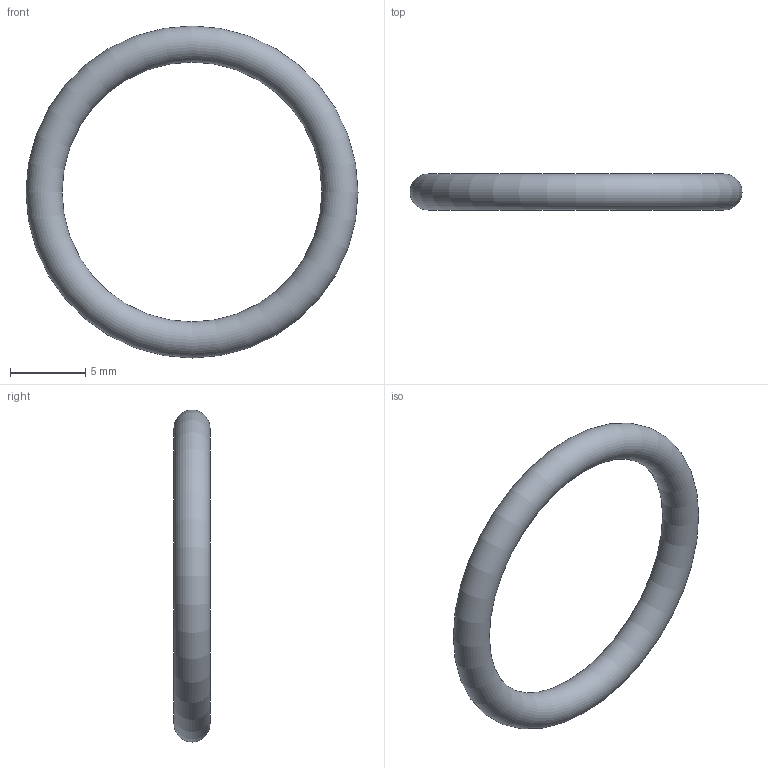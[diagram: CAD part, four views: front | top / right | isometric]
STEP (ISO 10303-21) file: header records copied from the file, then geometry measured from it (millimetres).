
FILE_DESCRIPTION( ( 'STEP AP203' ), '1' );
FILE_NAME( 'C:/Temp/Ganter_Step_05_03_2020/data/3_5/or638/O-Ring OR638-17.30-2.40-70.stp', '2020-03-12T13:44:26', ( 'License CC BY-ND 4.0' ), ( 'CADENAS' ), ' ', 'PARTsolutions', ' ' );
FILE_SCHEMA( ( 'CONFIG_CONTROL_DESIGN' ) );
Length unit declared in the file: millimetre
Products named in the file (1): _O-Ring OR638-17.30-2.40-70
Bounding box: 22.1 x 2.4 x 22.1 mm (x, y, z)
Volume: 280 mm3; surface area: 466.6 mm2
Topology: 1 solids, 1 shells, 1 faces, 2 edges, 1 vertices
Faces by surface type: torus 1
Entity records: 62 total; most frequent: CC_DESIGN_PERSON_AND_ORGANIZATION_ASSIGNMENT 5, PERSON_AND_ORGANIZATION_ROLE 4, DIRECTION 4, CARTESIAN_POINT 3, DATE_TIME_ROLE 2, CC_DESIGN_DATE_AND_TIME_ASSIGNMENT 2, AXIS2_PLACEMENT_3D 2, DIMENSIONAL_EXPONENTS 2
